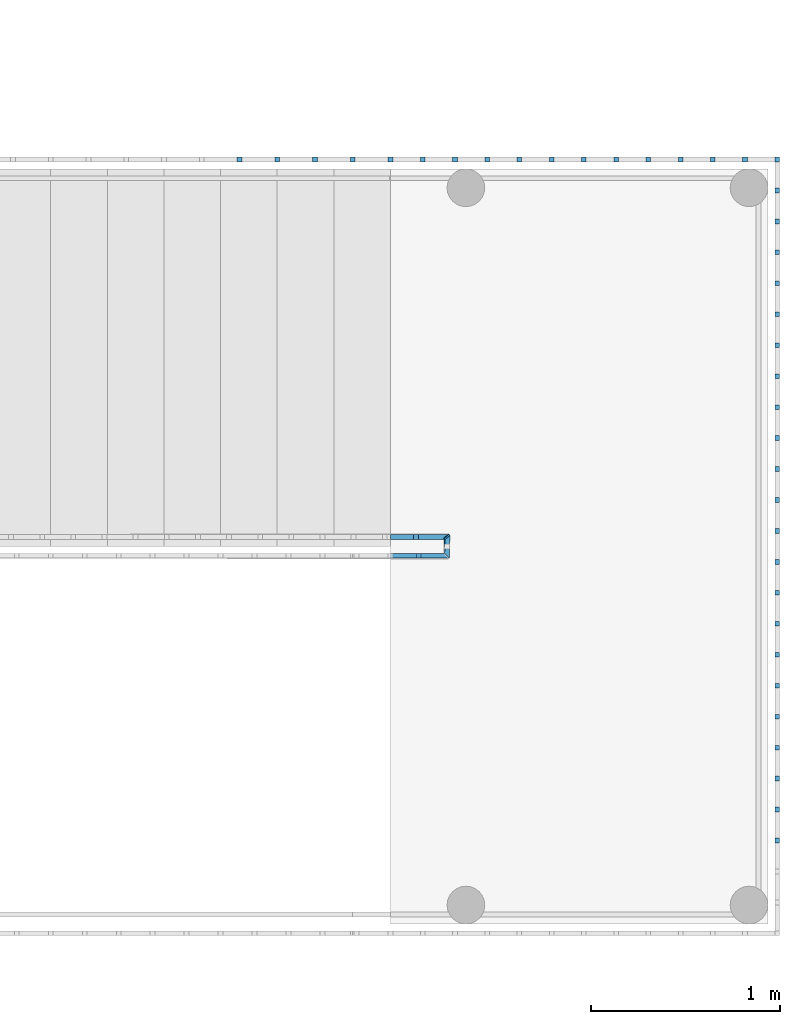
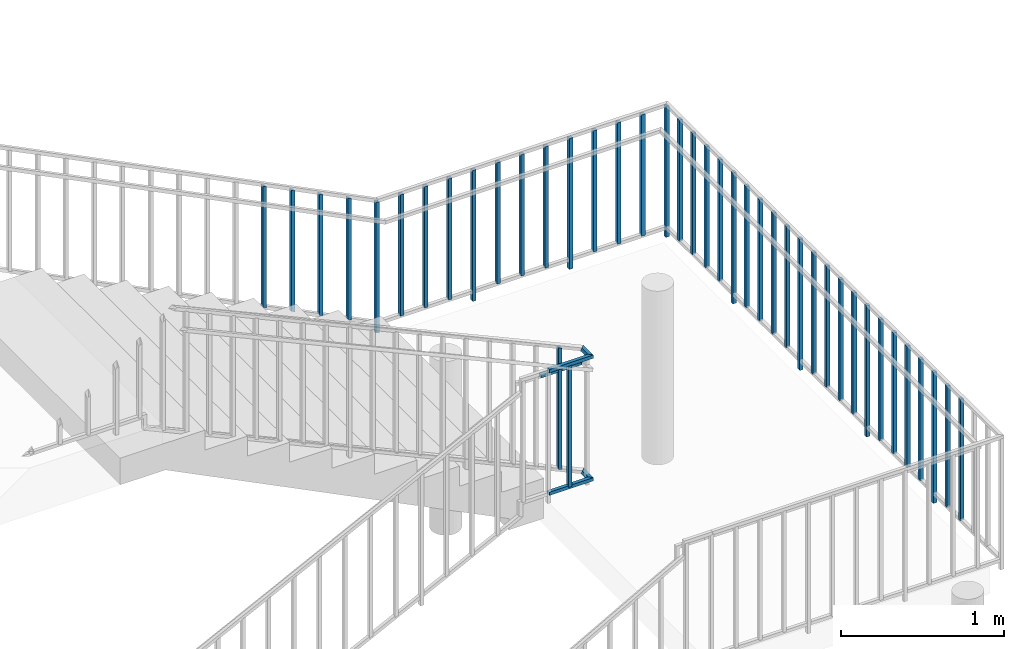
# One storey, part 19 of 19: 46 building element parts, 2 elements without a shape of their own.
"""IFC4 building model written with IfcOpenShell, lengths in millimetres."""

from ifc_helpers import new_model, entity, si_unit, converted_unit, derived_unit, direction, frame, origin_with_axes, place, context, subcontext, project, spatial, triangles, material, element, aggregate, save


model = new_model("IFC4")

# Units and contexts
model_context = context("Model", 3, precision=1e-05, world=origin_with_axes(), true_north=direction((0.0, 1.0)))
body_context = subcontext(model_context, "Body", "Model", "MODEL_VIEW")
ifc_project = project(units=[si_unit("LENGTHUNIT", "METRE", prefix="MILLI"), si_unit("AREAUNIT", "SQUARE_METRE"), si_unit("VOLUMEUNIT", "CUBIC_METRE"), converted_unit("PLANEANGLEUNIT", "DEGREE", entity("IfcLengthMeasure", 0.017453), si_unit("PLANEANGLEUNIT", "RADIAN"), dimensions=[0, 0, 0, 0, 0, 0, 0]), si_unit("SOLIDANGLEUNIT", "STERADIAN"), si_unit("MASSUNIT", "GRAM"), si_unit("TIMEUNIT", "SECOND"), si_unit("THERMODYNAMICTEMPERATUREUNIT", "DEGREE_CELSIUS"), si_unit("LUMINOUSINTENSITYUNIT", "LUMEN"), si_unit("POWERUNIT", "WATT"), derived_unit("THERMALTRANSMITTANCEUNIT", [(si_unit("POWERUNIT", "WATT"), 1), (si_unit("THERMODYNAMICTEMPERATUREUNIT", "KELVIN"), -1), (si_unit("AREAUNIT", "SQUARE_METRE"), -1)])], contexts=[model_context])

# Site, building, storey
site_placement = place(None, origin_with_axes())
site = spatial("IfcSite", under=ifc_project, at=site_placement, Name="Default Site", CompositionType="ELEMENT")
building_placement = place(site_placement, origin_with_axes())
building = spatial("IfcBuilding", under=site, at=building_placement, Name="Default Building", CompositionType="ELEMENT")
storey_placement = place(building_placement, frame((0.0, 0.0, 3000.0), z_axis=(0.0, 0.0, 1.0), x_axis=(1.0, 0.0, 0.0)))
storey = spatial("IfcBuildingStorey", under=building, at=storey_placement, Name="EG - Story", CompositionType="ELEMENT", Elevation=3000.0)

# Railing, building element parts
railing_1_placement = place(storey_placement, origin_with_axes())
railing_1 = element("IfcRailing", 1, at=railing_1_placement, inside=storey, Name="Geländer - 001", PredefinedType="NOTDEFINED")
ifc_material = material(Name="Bekleidung")
building_element_part_1_placement = place(railing_1_placement, frame((84051.391327, -29589.262838, -3000.0), z_axis=(0.0, 0.0, 1.0), x_axis=(1.0, 0.0, 0.0)))
building_element_part_1 = element("IfcBuildingElementPart", 2, at=building_element_part_1_placement, material=ifc_material, Name="Bekleidung", PredefinedType="NOTDEFINED", context=body_context, shape_type="Tessellation", body=[
    triangles([(3012.5, -62.499, 1582.5), (3012.5, -62.499, 1557.5), (3009.978, 64.15, 1557.757), (2987.5, -37.499, 1582.5), (2987.5, -37.499, 1557.5), (2984.978, 41.391, 1557.757), (3015.022, 58.609, 1582.243), (2990.022, 35.85, 1582.243)], [[1, 2, 3], [1, 4, 5], [1, 5, 2], [2, 6, 3], [1, 3, 7], [4, 1, 7], [5, 4, 8], [2, 5, 6], [7, 3, 6], [7, 6, 8], [4, 7, 8], [5, 8, 6]], closed=False),
])
building_element_part_2_placement = place(railing_1_placement, frame((84051.391327, -29589.262838, -3000.0), z_axis=(0.0, 0.0, 1.0), x_axis=(1.0, 0.0, 0.0)))
building_element_part_2 = element("IfcBuildingElementPart", 3, at=building_element_part_2_placement, material=ifc_material, Name="Bekleidung", PredefinedType="NOTDEFINED", context=body_context, shape_type="Tessellation", body=[
    triangles([(3012.5, -62.499, 2500.0), (3012.5, -62.499, 2475.0), (3007.456, 66.92, 2475.514), (2987.5, -37.499, 2500.0), (2987.5, -37.499, 2475.0), (2982.456, 44.161, 2475.514), (3012.5, 61.38, 2500.0), (2987.5, 38.62, 2500.0)], [[1, 2, 3], [1, 4, 5], [1, 5, 2], [2, 6, 3], [1, 3, 7], [4, 1, 7], [4, 7, 8], [5, 4, 8], [2, 5, 6], [7, 3, 6], [7, 6, 8], [5, 8, 6]], closed=False),
])
building_element_part_3_placement = place(railing_1_placement, frame((84051.391327, -29589.262838, -3000.0), z_axis=(0.0, 0.0, 1.0), x_axis=(1.0, 0.0, 0.0)))
building_element_part_3 = element("IfcBuildingElementPart", 4, at=building_element_part_3_placement, material=ifc_material, Name="Bekleidung", PredefinedType="NOTDEFINED", context=body_context, shape_type="Tessellation", body=[
    triangles([(2700.0, 37.5, 2400.0), (2700.0, 37.5, 2375.0), (2987.5, 37.5, 2375.0), (2987.5, 37.5, 2400.0), (2700.0, 62.5, 2400.0), (2700.0, 62.5, 2375.0), (3012.5, 62.5, 2375.0), (3012.5, 62.5, 2400.0)], [[1, 2, 3], [1, 3, 4], [1, 5, 6], [1, 6, 2], [2, 6, 7], [2, 7, 3], [4, 3, 7], [4, 7, 8], [5, 1, 4], [5, 4, 8], [6, 5, 8], [6, 8, 7]], closed=False),
])
building_element_part_4_placement = place(railing_1_placement, frame((84051.391327, -29589.262838, -3000.0), z_axis=(0.0, 0.0, 1.0), x_axis=(1.0, 0.0, 0.0)))
building_element_part_4 = element("IfcBuildingElementPart", 5, at=building_element_part_4_placement, material=ifc_material, Name="Bekleidung", PredefinedType="NOTDEFINED", context=body_context, shape_type="Tessellation", body=[
    triangles([(2700.0, -62.499, 2500.0), (2700.0, -62.499, 2475.0), (3012.5, -62.499, 2475.0), (3012.5, -62.499, 2500.0), (2700.0, -37.499, 2500.0), (2700.0, -37.499, 2475.0), (2987.5, -37.499, 2475.0), (2987.5, -37.499, 2500.0)], [[1, 2, 3], [1, 3, 4], [1, 5, 6], [1, 6, 2], [2, 6, 7], [2, 7, 3], [4, 3, 7], [4, 7, 8], [5, 1, 4], [5, 4, 8], [6, 5, 8], [6, 8, 7]], closed=False),
])
building_element_part_5_placement = place(railing_1_placement, frame((84051.391327, -29589.262838, -3000.0), z_axis=(0.0, 0.0, 1.0), x_axis=(1.0, 0.0, 0.0)))
building_element_part_5 = element("IfcBuildingElementPart", 6, at=building_element_part_5_placement, material=ifc_material, Name="Bekleidung", PredefinedType="NOTDEFINED", context=body_context, shape_type="Tessellation", body=[
    triangles([(2700.0, -62.499, 1582.5), (2700.0, -62.499, 1557.5), (3012.5, -62.499, 1557.5), (3012.5, -62.499, 1582.5), (2700.0, -37.499, 1582.5), (2700.0, -37.499, 1557.5), (2987.5, -37.499, 1557.5), (2987.5, -37.499, 1582.5)], [[1, 2, 3], [1, 3, 4], [1, 5, 6], [1, 6, 2], [2, 6, 7], [2, 7, 3], [4, 3, 7], [4, 7, 8], [5, 1, 4], [5, 4, 8], [6, 5, 8], [6, 8, 7]], closed=False),
])
building_element_part_6_placement = place(railing_1_placement, frame((84051.391327, -29589.262838, -3000.0), z_axis=(0.0, 0.0, 1.0), x_axis=(1.0, 0.0, 0.0)))
building_element_part_6 = element("IfcBuildingElementPart", 7, at=building_element_part_6_placement, material=ifc_material, Name="Bekleidung", PredefinedType="NOTDEFINED", context=body_context, shape_type="Tessellation", body=[
    triangles([(2862.5, -62.499, 1570.0), (2862.5, -37.499, 1570.0), (2862.5, -37.499, 2477.5), (2862.5, -62.499, 2477.5), (2837.5, -62.499, 1570.0), (2837.5, -37.499, 1570.0), (2837.5, -37.499, 2477.5), (2837.5, -62.499, 2477.5)], [[1, 2, 3], [1, 3, 4], [1, 5, 6], [1, 6, 2], [2, 6, 7], [2, 7, 3], [4, 3, 7], [4, 7, 8], [5, 1, 4], [5, 4, 8], [6, 5, 8], [6, 8, 7]], closed=False),
])
building_element_part_7_placement = place(railing_1_placement, frame((84051.391327, -29589.262838, -3000.0), z_axis=(0.0, 0.0, 1.0), x_axis=(1.0, 0.0, 0.0)))
building_element_part_7 = element("IfcBuildingElementPart", 8, at=building_element_part_7_placement, material=ifc_material, Name="Bekleidung", PredefinedType="NOTDEFINED", context=body_context, shape_type="Tessellation", body=[
    triangles([(2822.5, 62.5, 1650.682), (2822.5, 37.5, 1650.682), (2822.5, 37.5, 2558.182), (2822.5, 62.5, 2558.182), (2847.5, 62.5, 1639.318), (2847.5, 37.5, 1639.318), (2847.5, 37.5, 2546.818), (2847.5, 62.5, 2546.818)], [[1, 2, 3], [1, 3, 4], [1, 5, 6], [1, 6, 2], [2, 6, 7], [2, 7, 3], [4, 3, 7], [4, 7, 8], [5, 1, 4], [5, 4, 8], [6, 5, 8], [6, 8, 7]], closed=False),
])
aggregate(railing_1, [building_element_part_1, building_element_part_2, building_element_part_3, building_element_part_4, building_element_part_5, building_element_part_6, building_element_part_7])

railing_2_placement = place(storey_placement, origin_with_axes())
railing_2 = element("IfcRailing", 9, at=railing_2_placement, inside=storey, Name="Geländer - 001", PredefinedType="NOTDEFINED")
building_element_part_8_placement = place(railing_2_placement, frame((84051.391327, -31589.262838, -3000.0), z_axis=(0.0, 0.0, 1.0), x_axis=(1.0, 0.0, 0.0)))
building_element_part_8 = element("IfcBuildingElementPart", 10, at=building_element_part_8_placement, material=ifc_material, Name="Bekleidung", PredefinedType="NOTDEFINED", context=body_context, shape_type="Tessellation", body=[
    triangles([(4762.5, 4062.5, 1500.0), (4737.5, 4062.5, 1500.0), (4737.5, 4062.5, 2480.0), (4762.5, 4062.5, 2480.0), (4762.5, 4037.5, 1500.0), (4737.5, 4037.5, 1500.0), (4737.5, 4037.5, 2480.0), (4762.5, 4037.5, 2480.0)], [[1, 2, 3], [1, 3, 4], [1, 5, 6], [1, 6, 2], [2, 6, 7], [2, 7, 3], [4, 3, 7], [4, 7, 8], [5, 1, 4], [5, 4, 8], [6, 5, 8], [6, 8, 7]], closed=False),
])
building_element_part_9_placement = place(railing_2_placement, frame((84051.391327, -31589.262838, -3000.0), z_axis=(0.0, 0.0, 1.0), x_axis=(1.0, 0.0, 0.0)))
building_element_part_9 = element("IfcBuildingElementPart", 11, at=building_element_part_9_placement, material=ifc_material, Name="Bekleidung", PredefinedType="NOTDEFINED", context=body_context, shape_type="Tessellation", body=[
    triangles([(2687.5, 4062.5, 1502.951), (2687.5, 4037.5, 1502.951), (2687.5, 4037.5, 2482.951), (2687.5, 4062.5, 2482.951), (2712.5, 4062.5, 1497.049), (2712.5, 4037.5, 1497.049), (2712.5, 4037.5, 2477.049), (2712.5, 4062.5, 2477.049)], [[1, 2, 3], [1, 3, 4], [1, 5, 6], [1, 6, 2], [2, 6, 7], [2, 7, 3], [4, 3, 7], [4, 7, 8], [5, 1, 4], [5, 4, 8], [6, 5, 8], [6, 8, 7]], closed=False),
])
building_element_part_10_placement = place(railing_2_placement, frame((84051.391327, -31589.262838, -3000.0), z_axis=(0.0, 0.0, 1.0), x_axis=(1.0, 0.0, 0.0)))
building_element_part_10 = element("IfcBuildingElementPart", 12, at=building_element_part_10_placement, material=ifc_material, Name="Bekleidung", PredefinedType="NOTDEFINED", context=body_context, shape_type="Tessellation", body=[
    triangles([(4762.5, 454.5, 1570.0), (4737.5, 454.5, 1570.0), (4737.5, 454.5, 2477.5), (4762.5, 454.5, 2477.5), (4762.5, 429.5, 1570.0), (4737.5, 429.5, 1570.0), (4737.5, 429.5, 2477.5), (4762.5, 429.5, 2477.5)], [[1, 2, 3], [1, 3, 4], [1, 5, 6], [1, 6, 2], [2, 6, 7], [2, 7, 3], [4, 3, 7], [4, 7, 8], [5, 1, 4], [5, 4, 8], [6, 5, 8], [6, 8, 7]], closed=False),
])
building_element_part_11_placement = place(railing_2_placement, frame((84051.391327, -31589.262838, -3000.0), z_axis=(0.0, 0.0, 1.0), x_axis=(1.0, 0.0, 0.0)))
building_element_part_11 = element("IfcBuildingElementPart", 13, at=building_element_part_11_placement, material=ifc_material, Name="Bekleidung", PredefinedType="NOTDEFINED", context=body_context, shape_type="Tessellation", body=[
    triangles([(4762.5, 618.5, 1570.0), (4737.5, 618.5, 1570.0), (4737.5, 618.5, 2477.5), (4762.5, 618.5, 2477.5), (4762.5, 593.5, 1570.0), (4737.5, 593.5, 1570.0), (4737.5, 593.5, 2477.5), (4762.5, 593.5, 2477.5)], [[1, 2, 3], [1, 3, 4], [1, 5, 6], [1, 6, 2], [2, 6, 7], [2, 7, 3], [4, 3, 7], [4, 7, 8], [5, 1, 4], [5, 4, 8], [6, 5, 8], [6, 8, 7]], closed=False),
])
building_element_part_12_placement = place(railing_2_placement, frame((84051.391327, -31589.262838, -3000.0), z_axis=(0.0, 0.0, 1.0), x_axis=(1.0, 0.0, 0.0)))
building_element_part_12 = element("IfcBuildingElementPart", 14, at=building_element_part_12_placement, material=ifc_material, Name="Bekleidung", PredefinedType="NOTDEFINED", context=body_context, shape_type="Tessellation", body=[
    triangles([(4762.5, 782.5, 1500.0), (4737.5, 782.5, 1500.0), (4737.5, 782.5, 2480.0), (4762.5, 782.5, 2480.0), (4762.5, 757.5, 1500.0), (4737.5, 757.5, 1500.0), (4737.5, 757.5, 2480.0), (4762.5, 757.5, 2480.0)], [[1, 2, 3], [1, 3, 4], [1, 5, 6], [1, 6, 2], [2, 6, 7], [2, 7, 3], [4, 3, 7], [4, 7, 8], [5, 1, 4], [5, 4, 8], [6, 5, 8], [6, 8, 7]], closed=False),
])
building_element_part_13_placement = place(railing_2_placement, frame((84051.391327, -31589.262838, -3000.0), z_axis=(0.0, 0.0, 1.0), x_axis=(1.0, 0.0, 0.0)))
building_element_part_13 = element("IfcBuildingElementPart", 15, at=building_element_part_13_placement, material=ifc_material, Name="Bekleidung", PredefinedType="NOTDEFINED", context=body_context, shape_type="Tessellation", body=[
    triangles([(4762.5, 946.5, 1570.0), (4737.5, 946.5, 1570.0), (4737.5, 946.5, 2477.5), (4762.5, 946.5, 2477.5), (4762.5, 921.5, 1570.0), (4737.5, 921.5, 1570.0), (4737.5, 921.5, 2477.5), (4762.5, 921.5, 2477.5)], [[1, 2, 3], [1, 3, 4], [1, 5, 6], [1, 6, 2], [2, 6, 7], [2, 7, 3], [4, 3, 7], [4, 7, 8], [5, 1, 4], [5, 4, 8], [6, 5, 8], [6, 8, 7]], closed=False),
])
building_element_part_14_placement = place(railing_2_placement, frame((84051.391327, -31589.262838, -3000.0), z_axis=(0.0, 0.0, 1.0), x_axis=(1.0, 0.0, 0.0)))
building_element_part_14 = element("IfcBuildingElementPart", 16, at=building_element_part_14_placement, material=ifc_material, Name="Bekleidung", PredefinedType="NOTDEFINED", context=body_context, shape_type="Tessellation", body=[
    triangles([(4762.5, 1110.5, 1570.0), (4737.5, 1110.5, 1570.0), (4737.5, 1110.5, 2477.5), (4762.5, 1110.5, 2477.5), (4762.5, 1085.5, 1570.0), (4737.5, 1085.5, 1570.0), (4737.5, 1085.5, 2477.5), (4762.5, 1085.5, 2477.5)], [[1, 2, 3], [1, 3, 4], [1, 5, 6], [1, 6, 2], [2, 6, 7], [2, 7, 3], [4, 3, 7], [4, 7, 8], [5, 1, 4], [5, 4, 8], [6, 5, 8], [6, 8, 7]], closed=False),
])
building_element_part_15_placement = place(railing_2_placement, frame((84051.391327, -31589.262838, -3000.0), z_axis=(0.0, 0.0, 1.0), x_axis=(1.0, 0.0, 0.0)))
building_element_part_15 = element("IfcBuildingElementPart", 17, at=building_element_part_15_placement, material=ifc_material, Name="Bekleidung", PredefinedType="NOTDEFINED", context=body_context, shape_type="Tessellation", body=[
    triangles([(4762.5, 1274.5, 1570.0), (4737.5, 1274.5, 1570.0), (4737.5, 1274.5, 2477.5), (4762.5, 1274.5, 2477.5), (4762.5, 1249.5, 1570.0), (4737.5, 1249.5, 1570.0), (4737.5, 1249.5, 2477.5), (4762.5, 1249.5, 2477.5)], [[1, 2, 3], [1, 3, 4], [1, 5, 6], [1, 6, 2], [2, 6, 7], [2, 7, 3], [4, 3, 7], [4, 7, 8], [5, 1, 4], [5, 4, 8], [6, 5, 8], [6, 8, 7]], closed=False),
])
building_element_part_16_placement = place(railing_2_placement, frame((84051.391327, -31589.262838, -3000.0), z_axis=(0.0, 0.0, 1.0), x_axis=(1.0, 0.0, 0.0)))
building_element_part_16 = element("IfcBuildingElementPart", 18, at=building_element_part_16_placement, material=ifc_material, Name="Bekleidung", PredefinedType="NOTDEFINED", context=body_context, shape_type="Tessellation", body=[
    triangles([(4762.5, 1438.5, 1570.0), (4737.5, 1438.5, 1570.0), (4737.5, 1438.5, 2477.5), (4762.5, 1438.5, 2477.5), (4762.5, 1413.5, 1570.0), (4737.5, 1413.5, 1570.0), (4737.5, 1413.5, 2477.5), (4762.5, 1413.5, 2477.5)], [[1, 2, 3], [1, 3, 4], [1, 5, 6], [1, 6, 2], [2, 6, 7], [2, 7, 3], [4, 3, 7], [4, 7, 8], [5, 1, 4], [5, 4, 8], [6, 5, 8], [6, 8, 7]], closed=False),
])
building_element_part_17_placement = place(railing_2_placement, frame((84051.391327, -31589.262838, -3000.0), z_axis=(0.0, 0.0, 1.0), x_axis=(1.0, 0.0, 0.0)))
building_element_part_17 = element("IfcBuildingElementPart", 19, at=building_element_part_17_placement, material=ifc_material, Name="Bekleidung", PredefinedType="NOTDEFINED", context=body_context, shape_type="Tessellation", body=[
    triangles([(4762.5, 1602.5, 1500.0), (4737.5, 1602.5, 1500.0), (4737.5, 1602.5, 2480.0), (4762.5, 1602.5, 2480.0), (4762.5, 1577.5, 1500.0), (4737.5, 1577.5, 1500.0), (4737.5, 1577.5, 2480.0), (4762.5, 1577.5, 2480.0)], [[1, 2, 3], [1, 3, 4], [1, 5, 6], [1, 6, 2], [2, 6, 7], [2, 7, 3], [4, 3, 7], [4, 7, 8], [5, 1, 4], [5, 4, 8], [6, 5, 8], [6, 8, 7]], closed=False),
])
building_element_part_18_placement = place(railing_2_placement, frame((84051.391327, -31589.262838, -3000.0), z_axis=(0.0, 0.0, 1.0), x_axis=(1.0, 0.0, 0.0)))
building_element_part_18 = element("IfcBuildingElementPart", 20, at=building_element_part_18_placement, material=ifc_material, Name="Bekleidung", PredefinedType="NOTDEFINED", context=body_context, shape_type="Tessellation", body=[
    triangles([(4762.5, 1766.5, 1570.0), (4737.5, 1766.5, 1570.0), (4737.5, 1766.5, 2477.5), (4762.5, 1766.5, 2477.5), (4762.5, 1741.5, 1570.0), (4737.5, 1741.5, 1570.0), (4737.5, 1741.5, 2477.5), (4762.5, 1741.5, 2477.5)], [[1, 2, 3], [1, 3, 4], [1, 5, 6], [1, 6, 2], [2, 6, 7], [2, 7, 3], [4, 3, 7], [4, 7, 8], [5, 1, 4], [5, 4, 8], [6, 5, 8], [6, 8, 7]], closed=False),
])
building_element_part_19_placement = place(railing_2_placement, frame((84051.391327, -31589.262838, -3000.0), z_axis=(0.0, 0.0, 1.0), x_axis=(1.0, 0.0, 0.0)))
building_element_part_19 = element("IfcBuildingElementPart", 21, at=building_element_part_19_placement, material=ifc_material, Name="Bekleidung", PredefinedType="NOTDEFINED", context=body_context, shape_type="Tessellation", body=[
    triangles([(4762.5, 1930.5, 1570.0), (4737.5, 1930.5, 1570.0), (4737.5, 1930.5, 2477.5), (4762.5, 1930.5, 2477.5), (4762.5, 1905.5, 1570.0), (4737.5, 1905.5, 1570.0), (4737.5, 1905.5, 2477.5), (4762.5, 1905.5, 2477.5)], [[1, 2, 3], [1, 3, 4], [1, 5, 6], [1, 6, 2], [2, 6, 7], [2, 7, 3], [4, 3, 7], [4, 7, 8], [5, 1, 4], [5, 4, 8], [6, 5, 8], [6, 8, 7]], closed=False),
])
building_element_part_20_placement = place(railing_2_placement, frame((84051.391327, -31589.262838, -3000.0), z_axis=(0.0, 0.0, 1.0), x_axis=(1.0, 0.0, 0.0)))
building_element_part_20 = element("IfcBuildingElementPart", 22, at=building_element_part_20_placement, material=ifc_material, Name="Bekleidung", PredefinedType="NOTDEFINED", context=body_context, shape_type="Tessellation", body=[
    triangles([(4762.5, 2094.5, 1570.0), (4737.5, 2094.5, 1570.0), (4737.5, 2094.5, 2477.5), (4762.5, 2094.5, 2477.5), (4762.5, 2069.5, 1570.0), (4737.5, 2069.5, 1570.0), (4737.5, 2069.5, 2477.5), (4762.5, 2069.5, 2477.5)], [[1, 2, 3], [1, 3, 4], [1, 5, 6], [1, 6, 2], [2, 6, 7], [2, 7, 3], [4, 3, 7], [4, 7, 8], [5, 1, 4], [5, 4, 8], [6, 5, 8], [6, 8, 7]], closed=False),
])
building_element_part_21_placement = place(railing_2_placement, frame((84051.391327, -31589.262838, -3000.0), z_axis=(0.0, 0.0, 1.0), x_axis=(1.0, 0.0, 0.0)))
building_element_part_21 = element("IfcBuildingElementPart", 23, at=building_element_part_21_placement, material=ifc_material, Name="Bekleidung", PredefinedType="NOTDEFINED", context=body_context, shape_type="Tessellation", body=[
    triangles([(4762.5, 2258.5, 1570.0), (4737.5, 2258.5, 1570.0), (4737.5, 2258.5, 2477.5), (4762.5, 2258.5, 2477.5), (4762.5, 2233.5, 1570.0), (4737.5, 2233.5, 1570.0), (4737.5, 2233.5, 2477.5), (4762.5, 2233.5, 2477.5)], [[1, 2, 3], [1, 3, 4], [1, 5, 6], [1, 6, 2], [2, 6, 7], [2, 7, 3], [4, 3, 7], [4, 7, 8], [5, 1, 4], [5, 4, 8], [6, 5, 8], [6, 8, 7]], closed=False),
])
building_element_part_22_placement = place(railing_2_placement, frame((84051.391327, -31589.262838, -3000.0), z_axis=(0.0, 0.0, 1.0), x_axis=(1.0, 0.0, 0.0)))
building_element_part_22 = element("IfcBuildingElementPart", 24, at=building_element_part_22_placement, material=ifc_material, Name="Bekleidung", PredefinedType="NOTDEFINED", context=body_context, shape_type="Tessellation", body=[
    triangles([(4762.5, 2422.5, 1500.0), (4737.5, 2422.5, 1500.0), (4737.5, 2422.5, 2480.0), (4762.5, 2422.5, 2480.0), (4762.5, 2397.5, 1500.0), (4737.5, 2397.5, 1500.0), (4737.5, 2397.5, 2480.0), (4762.5, 2397.5, 2480.0)], [[1, 2, 3], [1, 3, 4], [1, 5, 6], [1, 6, 2], [2, 6, 7], [2, 7, 3], [4, 3, 7], [4, 7, 8], [5, 1, 4], [5, 4, 8], [6, 5, 8], [6, 8, 7]], closed=False),
])
building_element_part_23_placement = place(railing_2_placement, frame((84051.391327, -31589.262838, -3000.0), z_axis=(0.0, 0.0, 1.0), x_axis=(1.0, 0.0, 0.0)))
building_element_part_23 = element("IfcBuildingElementPart", 25, at=building_element_part_23_placement, material=ifc_material, Name="Bekleidung", PredefinedType="NOTDEFINED", context=body_context, shape_type="Tessellation", body=[
    triangles([(4762.5, 2586.5, 1570.0), (4737.5, 2586.5, 1570.0), (4737.5, 2586.5, 2477.5), (4762.5, 2586.5, 2477.5), (4762.5, 2561.5, 1570.0), (4737.5, 2561.5, 1570.0), (4737.5, 2561.5, 2477.5), (4762.5, 2561.5, 2477.5)], [[1, 2, 3], [1, 3, 4], [1, 5, 6], [1, 6, 2], [2, 6, 7], [2, 7, 3], [4, 3, 7], [4, 7, 8], [5, 1, 4], [5, 4, 8], [6, 5, 8], [6, 8, 7]], closed=False),
])
building_element_part_24_placement = place(railing_2_placement, frame((84051.391327, -31589.262838, -3000.0), z_axis=(0.0, 0.0, 1.0), x_axis=(1.0, 0.0, 0.0)))
building_element_part_24 = element("IfcBuildingElementPart", 26, at=building_element_part_24_placement, material=ifc_material, Name="Bekleidung", PredefinedType="NOTDEFINED", context=body_context, shape_type="Tessellation", body=[
    triangles([(4762.5, 2750.5, 1570.0), (4737.5, 2750.5, 1570.0), (4737.5, 2750.5, 2477.5), (4762.5, 2750.5, 2477.5), (4762.5, 2725.5, 1570.0), (4737.5, 2725.5, 1570.0), (4737.5, 2725.5, 2477.5), (4762.5, 2725.5, 2477.5)], [[1, 2, 3], [1, 3, 4], [1, 5, 6], [1, 6, 2], [2, 6, 7], [2, 7, 3], [4, 3, 7], [4, 7, 8], [5, 1, 4], [5, 4, 8], [6, 5, 8], [6, 8, 7]], closed=False),
])
building_element_part_25_placement = place(railing_2_placement, frame((84051.391327, -31589.262838, -3000.0), z_axis=(0.0, 0.0, 1.0), x_axis=(1.0, 0.0, 0.0)))
building_element_part_25 = element("IfcBuildingElementPart", 27, at=building_element_part_25_placement, material=ifc_material, Name="Bekleidung", PredefinedType="NOTDEFINED", context=body_context, shape_type="Tessellation", body=[
    triangles([(4762.5, 2914.5, 1570.0), (4737.5, 2914.5, 1570.0), (4737.5, 2914.5, 2477.5), (4762.5, 2914.5, 2477.5), (4762.5, 2889.5, 1570.0), (4737.5, 2889.5, 1570.0), (4737.5, 2889.5, 2477.5), (4762.5, 2889.5, 2477.5)], [[1, 2, 3], [1, 3, 4], [1, 5, 6], [1, 6, 2], [2, 6, 7], [2, 7, 3], [4, 3, 7], [4, 7, 8], [5, 1, 4], [5, 4, 8], [6, 5, 8], [6, 8, 7]], closed=False),
])
building_element_part_26_placement = place(railing_2_placement, frame((84051.391327, -31589.262838, -3000.0), z_axis=(0.0, 0.0, 1.0), x_axis=(1.0, 0.0, 0.0)))
building_element_part_26 = element("IfcBuildingElementPart", 28, at=building_element_part_26_placement, material=ifc_material, Name="Bekleidung", PredefinedType="NOTDEFINED", context=body_context, shape_type="Tessellation", body=[
    triangles([(4762.5, 3078.5, 1570.0), (4737.5, 3078.5, 1570.0), (4737.5, 3078.5, 2477.5), (4762.5, 3078.5, 2477.5), (4762.5, 3053.5, 1570.0), (4737.5, 3053.5, 1570.0), (4737.5, 3053.5, 2477.5), (4762.5, 3053.5, 2477.5)], [[1, 2, 3], [1, 3, 4], [1, 5, 6], [1, 6, 2], [2, 6, 7], [2, 7, 3], [4, 3, 7], [4, 7, 8], [5, 1, 4], [5, 4, 8], [6, 5, 8], [6, 8, 7]], closed=False),
])
building_element_part_27_placement = place(railing_2_placement, frame((84051.391327, -31589.262838, -3000.0), z_axis=(0.0, 0.0, 1.0), x_axis=(1.0, 0.0, 0.0)))
building_element_part_27 = element("IfcBuildingElementPart", 29, at=building_element_part_27_placement, material=ifc_material, Name="Bekleidung", PredefinedType="NOTDEFINED", context=body_context, shape_type="Tessellation", body=[
    triangles([(4762.5, 3242.5, 1500.0), (4737.5, 3242.5, 1500.0), (4737.5, 3242.5, 2480.0), (4762.5, 3242.5, 2480.0), (4762.5, 3217.5, 1500.0), (4737.5, 3217.5, 1500.0), (4737.5, 3217.5, 2480.0), (4762.5, 3217.5, 2480.0)], [[1, 2, 3], [1, 3, 4], [1, 5, 6], [1, 6, 2], [2, 6, 7], [2, 7, 3], [4, 3, 7], [4, 7, 8], [5, 1, 4], [5, 4, 8], [6, 5, 8], [6, 8, 7]], closed=False),
])
building_element_part_28_placement = place(railing_2_placement, frame((84051.391327, -31589.262838, -3000.0), z_axis=(0.0, 0.0, 1.0), x_axis=(1.0, 0.0, 0.0)))
building_element_part_28 = element("IfcBuildingElementPart", 30, at=building_element_part_28_placement, material=ifc_material, Name="Bekleidung", PredefinedType="NOTDEFINED", context=body_context, shape_type="Tessellation", body=[
    triangles([(4762.5, 3406.5, 1570.0), (4737.5, 3406.5, 1570.0), (4737.5, 3406.5, 2477.5), (4762.5, 3406.5, 2477.5), (4762.5, 3381.5, 1570.0), (4737.5, 3381.5, 1570.0), (4737.5, 3381.5, 2477.5), (4762.5, 3381.5, 2477.5)], [[1, 2, 3], [1, 3, 4], [1, 5, 6], [1, 6, 2], [2, 6, 7], [2, 7, 3], [4, 3, 7], [4, 7, 8], [5, 1, 4], [5, 4, 8], [6, 5, 8], [6, 8, 7]], closed=False),
])
building_element_part_29_placement = place(railing_2_placement, frame((84051.391327, -31589.262838, -3000.0), z_axis=(0.0, 0.0, 1.0), x_axis=(1.0, 0.0, 0.0)))
building_element_part_29 = element("IfcBuildingElementPart", 31, at=building_element_part_29_placement, material=ifc_material, Name="Bekleidung", PredefinedType="NOTDEFINED", context=body_context, shape_type="Tessellation", body=[
    triangles([(4762.5, 3570.5, 1570.0), (4737.5, 3570.5, 1570.0), (4737.5, 3570.5, 2477.5), (4762.5, 3570.5, 2477.5), (4762.5, 3545.5, 1570.0), (4737.5, 3545.5, 1570.0), (4737.5, 3545.5, 2477.5), (4762.5, 3545.5, 2477.5)], [[1, 2, 3], [1, 3, 4], [1, 5, 6], [1, 6, 2], [2, 6, 7], [2, 7, 3], [4, 3, 7], [4, 7, 8], [5, 1, 4], [5, 4, 8], [6, 5, 8], [6, 8, 7]], closed=False),
])
building_element_part_30_placement = place(railing_2_placement, frame((84051.391327, -31589.262838, -3000.0), z_axis=(0.0, 0.0, 1.0), x_axis=(1.0, 0.0, 0.0)))
building_element_part_30 = element("IfcBuildingElementPart", 32, at=building_element_part_30_placement, material=ifc_material, Name="Bekleidung", PredefinedType="NOTDEFINED", context=body_context, shape_type="Tessellation", body=[
    triangles([(4762.5, 3734.5, 1570.0), (4737.5, 3734.5, 1570.0), (4737.5, 3734.5, 2477.5), (4762.5, 3734.5, 2477.5), (4762.5, 3709.5, 1570.0), (4737.5, 3709.5, 1570.0), (4737.5, 3709.5, 2477.5), (4762.5, 3709.5, 2477.5)], [[1, 2, 3], [1, 3, 4], [1, 5, 6], [1, 6, 2], [2, 6, 7], [2, 7, 3], [4, 3, 7], [4, 7, 8], [5, 1, 4], [5, 4, 8], [6, 5, 8], [6, 8, 7]], closed=False),
])
building_element_part_31_placement = place(railing_2_placement, frame((84051.391327, -31589.262838, -3000.0), z_axis=(0.0, 0.0, 1.0), x_axis=(1.0, 0.0, 0.0)))
building_element_part_31 = element("IfcBuildingElementPart", 33, at=building_element_part_31_placement, material=ifc_material, Name="Bekleidung", PredefinedType="NOTDEFINED", context=body_context, shape_type="Tessellation", body=[
    triangles([(4762.5, 3898.5, 1570.0), (4737.5, 3898.5, 1570.0), (4737.5, 3898.5, 2477.5), (4762.5, 3898.5, 2477.5), (4762.5, 3873.5, 1570.0), (4737.5, 3873.5, 1570.0), (4737.5, 3873.5, 2477.5), (4762.5, 3873.5, 2477.5)], [[1, 2, 3], [1, 3, 4], [1, 5, 6], [1, 6, 2], [2, 6, 7], [2, 7, 3], [4, 3, 7], [4, 7, 8], [5, 1, 4], [5, 4, 8], [6, 5, 8], [6, 8, 7]], closed=False),
])
building_element_part_32_placement = place(railing_2_placement, frame((84051.391327, -31589.262838, -3000.0), z_axis=(0.0, 0.0, 1.0), x_axis=(1.0, 0.0, 0.0)))
building_element_part_32 = element("IfcBuildingElementPart", 34, at=building_element_part_32_placement, material=ifc_material, Name="Bekleidung", PredefinedType="NOTDEFINED", context=body_context, shape_type="Tessellation", body=[
    triangles([(4566.667, 4062.5, 1570.0), (4566.667, 4037.5, 1570.0), (4566.667, 4037.5, 2477.5), (4566.667, 4062.5, 2477.5), (4591.667, 4062.5, 1570.0), (4591.667, 4037.5, 1570.0), (4591.667, 4037.5, 2477.5), (4591.667, 4062.5, 2477.5)], [[1, 2, 3], [1, 3, 4], [1, 5, 6], [1, 6, 2], [2, 6, 7], [2, 7, 3], [4, 3, 7], [4, 7, 8], [5, 1, 4], [5, 4, 8], [6, 5, 8], [6, 8, 7]], closed=False),
])
building_element_part_33_placement = place(railing_2_placement, frame((84051.391327, -31589.262838, -3000.0), z_axis=(0.0, 0.0, 1.0), x_axis=(1.0, 0.0, 0.0)))
building_element_part_33 = element("IfcBuildingElementPart", 35, at=building_element_part_33_placement, material=ifc_material, Name="Bekleidung", PredefinedType="NOTDEFINED", context=body_context, shape_type="Tessellation", body=[
    triangles([(4395.833, 4062.5, 1570.0), (4395.833, 4037.5, 1570.0), (4395.833, 4037.5, 2477.5), (4395.833, 4062.5, 2477.5), (4420.833, 4062.5, 1570.0), (4420.833, 4037.5, 1570.0), (4420.833, 4037.5, 2477.5), (4420.833, 4062.5, 2477.5)], [[1, 2, 3], [1, 3, 4], [1, 5, 6], [1, 6, 2], [2, 6, 7], [2, 7, 3], [4, 3, 7], [4, 7, 8], [5, 1, 4], [5, 4, 8], [6, 5, 8], [6, 8, 7]], closed=False),
])
building_element_part_34_placement = place(railing_2_placement, frame((84051.391327, -31589.262838, -3000.0), z_axis=(0.0, 0.0, 1.0), x_axis=(1.0, 0.0, 0.0)))
building_element_part_34 = element("IfcBuildingElementPart", 36, at=building_element_part_34_placement, material=ifc_material, Name="Bekleidung", PredefinedType="NOTDEFINED", context=body_context, shape_type="Tessellation", body=[
    triangles([(4225.0, 4062.5, 1570.0), (4225.0, 4037.5, 1570.0), (4225.0, 4037.5, 2477.5), (4225.0, 4062.5, 2477.5), (4250.0, 4062.5, 1570.0), (4250.0, 4037.5, 1570.0), (4250.0, 4037.5, 2477.5), (4250.0, 4062.5, 2477.5)], [[1, 2, 3], [1, 3, 4], [1, 5, 6], [1, 6, 2], [2, 6, 7], [2, 7, 3], [4, 3, 7], [4, 7, 8], [5, 1, 4], [5, 4, 8], [6, 5, 8], [6, 8, 7]], closed=False),
])
building_element_part_35_placement = place(railing_2_placement, frame((84051.391327, -31589.262838, -3000.0), z_axis=(0.0, 0.0, 1.0), x_axis=(1.0, 0.0, 0.0)))
building_element_part_35 = element("IfcBuildingElementPart", 37, at=building_element_part_35_placement, material=ifc_material, Name="Bekleidung", PredefinedType="NOTDEFINED", context=body_context, shape_type="Tessellation", body=[
    triangles([(4054.167, 4062.5, 1500.0), (4054.167, 4037.5, 1500.0), (4054.167, 4037.5, 2480.0), (4054.167, 4062.5, 2480.0), (4079.167, 4062.5, 1500.0), (4079.167, 4037.5, 1500.0), (4079.167, 4037.5, 2480.0), (4079.167, 4062.5, 2480.0)], [[1, 2, 3], [1, 3, 4], [1, 5, 6], [1, 6, 2], [2, 6, 7], [2, 7, 3], [4, 3, 7], [4, 7, 8], [5, 1, 4], [5, 4, 8], [6, 5, 8], [6, 8, 7]], closed=False),
])
building_element_part_36_placement = place(railing_2_placement, frame((84051.391327, -31589.262838, -3000.0), z_axis=(0.0, 0.0, 1.0), x_axis=(1.0, 0.0, 0.0)))
building_element_part_36 = element("IfcBuildingElementPart", 38, at=building_element_part_36_placement, material=ifc_material, Name="Bekleidung", PredefinedType="NOTDEFINED", context=body_context, shape_type="Tessellation", body=[
    triangles([(3883.333, 4062.5, 1570.0), (3883.333, 4037.5, 1570.0), (3883.333, 4037.5, 2477.5), (3883.333, 4062.5, 2477.5), (3908.333, 4062.5, 1570.0), (3908.333, 4037.5, 1570.0), (3908.333, 4037.5, 2477.5), (3908.333, 4062.5, 2477.5)], [[1, 2, 3], [1, 3, 4], [1, 5, 6], [1, 6, 2], [2, 6, 7], [2, 7, 3], [4, 3, 7], [4, 7, 8], [5, 1, 4], [5, 4, 8], [6, 5, 8], [6, 8, 7]], closed=False),
])
building_element_part_37_placement = place(railing_2_placement, frame((84051.391327, -31589.262838, -3000.0), z_axis=(0.0, 0.0, 1.0), x_axis=(1.0, 0.0, 0.0)))
building_element_part_37 = element("IfcBuildingElementPart", 39, at=building_element_part_37_placement, material=ifc_material, Name="Bekleidung", PredefinedType="NOTDEFINED", context=body_context, shape_type="Tessellation", body=[
    triangles([(3712.5, 4062.5, 1570.0), (3712.5, 4037.5, 1570.0), (3712.5, 4037.5, 2477.5), (3712.5, 4062.5, 2477.5), (3737.5, 4062.5, 1570.0), (3737.5, 4037.5, 1570.0), (3737.5, 4037.5, 2477.5), (3737.5, 4062.5, 2477.5)], [[1, 2, 3], [1, 3, 4], [1, 5, 6], [1, 6, 2], [2, 6, 7], [2, 7, 3], [4, 3, 7], [4, 7, 8], [5, 1, 4], [5, 4, 8], [6, 5, 8], [6, 8, 7]], closed=False),
])
building_element_part_38_placement = place(railing_2_placement, frame((84051.391327, -31589.262838, -3000.0), z_axis=(0.0, 0.0, 1.0), x_axis=(1.0, 0.0, 0.0)))
building_element_part_38 = element("IfcBuildingElementPart", 40, at=building_element_part_38_placement, material=ifc_material, Name="Bekleidung", PredefinedType="NOTDEFINED", context=body_context, shape_type="Tessellation", body=[
    triangles([(3541.667, 4062.5, 1570.0), (3541.667, 4037.5, 1570.0), (3541.667, 4037.5, 2477.5), (3541.667, 4062.5, 2477.5), (3566.667, 4062.5, 1570.0), (3566.667, 4037.5, 1570.0), (3566.667, 4037.5, 2477.5), (3566.667, 4062.5, 2477.5)], [[1, 2, 3], [1, 3, 4], [1, 5, 6], [1, 6, 2], [2, 6, 7], [2, 7, 3], [4, 3, 7], [4, 7, 8], [5, 1, 4], [5, 4, 8], [6, 5, 8], [6, 8, 7]], closed=False),
])
building_element_part_39_placement = place(railing_2_placement, frame((84051.391327, -31589.262838, -3000.0), z_axis=(0.0, 0.0, 1.0), x_axis=(1.0, 0.0, 0.0)))
building_element_part_39 = element("IfcBuildingElementPart", 41, at=building_element_part_39_placement, material=ifc_material, Name="Bekleidung", PredefinedType="NOTDEFINED", context=body_context, shape_type="Tessellation", body=[
    triangles([(3370.833, 4062.5, 1500.0), (3370.833, 4037.5, 1500.0), (3370.833, 4037.5, 2480.0), (3370.833, 4062.5, 2480.0), (3395.833, 4062.5, 1500.0), (3395.833, 4037.5, 1500.0), (3395.833, 4037.5, 2480.0), (3395.833, 4062.5, 2480.0)], [[1, 2, 3], [1, 3, 4], [1, 5, 6], [1, 6, 2], [2, 6, 7], [2, 7, 3], [4, 3, 7], [4, 7, 8], [5, 1, 4], [5, 4, 8], [6, 5, 8], [6, 8, 7]], closed=False),
])
building_element_part_40_placement = place(railing_2_placement, frame((84051.391327, -31589.262838, -3000.0), z_axis=(0.0, 0.0, 1.0), x_axis=(1.0, 0.0, 0.0)))
building_element_part_40 = element("IfcBuildingElementPart", 42, at=building_element_part_40_placement, material=ifc_material, Name="Bekleidung", PredefinedType="NOTDEFINED", context=body_context, shape_type="Tessellation", body=[
    triangles([(3200.0, 4062.5, 1570.0), (3200.0, 4037.5, 1570.0), (3200.0, 4037.5, 2477.5), (3200.0, 4062.5, 2477.5), (3225.0, 4062.5, 1570.0), (3225.0, 4037.5, 1570.0), (3225.0, 4037.5, 2477.5), (3225.0, 4062.5, 2477.5)], [[1, 2, 3], [1, 3, 4], [1, 5, 6], [1, 6, 2], [2, 6, 7], [2, 7, 3], [4, 3, 7], [4, 7, 8], [5, 1, 4], [5, 4, 8], [6, 5, 8], [6, 8, 7]], closed=False),
])
building_element_part_41_placement = place(railing_2_placement, frame((84051.391327, -31589.262838, -3000.0), z_axis=(0.0, 0.0, 1.0), x_axis=(1.0, 0.0, 0.0)))
building_element_part_41 = element("IfcBuildingElementPart", 43, at=building_element_part_41_placement, material=ifc_material, Name="Bekleidung", PredefinedType="NOTDEFINED", context=body_context, shape_type="Tessellation", body=[
    triangles([(3029.167, 4062.5, 1570.0), (3029.167, 4037.5, 1570.0), (3029.167, 4037.5, 2477.5), (3029.167, 4062.5, 2477.5), (3054.167, 4062.5, 1570.0), (3054.167, 4037.5, 1570.0), (3054.167, 4037.5, 2477.5), (3054.167, 4062.5, 2477.5)], [[1, 2, 3], [1, 3, 4], [1, 5, 6], [1, 6, 2], [2, 6, 7], [2, 7, 3], [4, 3, 7], [4, 7, 8], [5, 1, 4], [5, 4, 8], [6, 5, 8], [6, 8, 7]], closed=False),
])
building_element_part_42_placement = place(railing_2_placement, frame((84051.391327, -31589.262838, -3000.0), z_axis=(0.0, 0.0, 1.0), x_axis=(1.0, 0.0, 0.0)))
building_element_part_42 = element("IfcBuildingElementPart", 44, at=building_element_part_42_placement, material=ifc_material, Name="Bekleidung", PredefinedType="NOTDEFINED", context=body_context, shape_type="Tessellation", body=[
    triangles([(2858.333, 4062.5, 1570.0), (2858.333, 4037.5, 1570.0), (2858.333, 4037.5, 2477.5), (2858.333, 4062.5, 2477.5), (2883.333, 4062.5, 1570.0), (2883.333, 4037.5, 1570.0), (2883.333, 4037.5, 2477.5), (2883.333, 4062.5, 2477.5)], [[1, 2, 3], [1, 3, 4], [1, 5, 6], [1, 6, 2], [2, 6, 7], [2, 7, 3], [4, 3, 7], [4, 7, 8], [5, 1, 4], [5, 4, 8], [6, 5, 8], [6, 8, 7]], closed=False),
])
building_element_part_43_placement = place(railing_2_placement, frame((84051.391327, -31589.262838, -3000.0), z_axis=(0.0, 0.0, 1.0), x_axis=(1.0, 0.0, 0.0)))
building_element_part_43 = element("IfcBuildingElementPart", 45, at=building_element_part_43_placement, material=ifc_material, Name="Bekleidung", PredefinedType="NOTDEFINED", context=body_context, shape_type="Tessellation", body=[
    triangles([(2487.5, 4062.5, 1676.25), (2487.5, 4037.5, 1676.25), (2487.5, 4037.5, 2583.75), (2487.5, 4062.5, 2583.75), (2512.5, 4062.5, 1663.75), (2512.5, 4037.5, 1663.75), (2512.5, 4037.5, 2571.25), (2512.5, 4062.5, 2571.25)], [[1, 2, 3], [1, 3, 4], [1, 5, 6], [1, 6, 2], [2, 6, 7], [2, 7, 3], [4, 3, 7], [4, 7, 8], [5, 1, 4], [5, 4, 8], [6, 5, 8], [6, 8, 7]], closed=False),
])
building_element_part_44_placement = place(railing_2_placement, frame((84051.391327, -31589.262838, -3000.0), z_axis=(0.0, 0.0, 1.0), x_axis=(1.0, 0.0, 0.0)))
building_element_part_44 = element("IfcBuildingElementPart", 46, at=building_element_part_44_placement, material=ifc_material, Name="Bekleidung", PredefinedType="NOTDEFINED", context=body_context, shape_type="Tessellation", body=[
    triangles([(2287.5, 4062.5, 1776.25), (2287.5, 4037.5, 1776.25), (2287.5, 4037.5, 2683.75), (2287.5, 4062.5, 2683.75), (2312.5, 4062.5, 1763.75), (2312.5, 4037.5, 1763.75), (2312.5, 4037.5, 2671.25), (2312.5, 4062.5, 2671.25)], [[1, 2, 3], [1, 3, 4], [1, 5, 6], [1, 6, 2], [2, 6, 7], [2, 7, 3], [4, 3, 7], [4, 7, 8], [5, 1, 4], [5, 4, 8], [6, 5, 8], [6, 8, 7]], closed=False),
])
building_element_part_45_placement = place(railing_2_placement, frame((84051.391327, -31589.262838, -3000.0), z_axis=(0.0, 0.0, 1.0), x_axis=(1.0, 0.0, 0.0)))
building_element_part_45 = element("IfcBuildingElementPart", 47, at=building_element_part_45_placement, material=ifc_material, Name="Bekleidung", PredefinedType="NOTDEFINED", context=body_context, shape_type="Tessellation", body=[
    triangles([(2087.5, 4062.5, 1876.25), (2087.5, 4037.5, 1876.25), (2087.5, 4037.5, 2783.75), (2087.5, 4062.5, 2783.75), (2112.5, 4062.5, 1863.75), (2112.5, 4037.5, 1863.75), (2112.5, 4037.5, 2771.25), (2112.5, 4062.5, 2771.25)], [[1, 2, 3], [1, 3, 4], [1, 5, 6], [1, 6, 2], [2, 6, 7], [2, 7, 3], [4, 3, 7], [4, 7, 8], [5, 1, 4], [5, 4, 8], [6, 5, 8], [6, 8, 7]], closed=False),
])
building_element_part_46_placement = place(railing_2_placement, frame((84051.391327, -31589.262838, -3000.0), z_axis=(0.0, 0.0, 1.0), x_axis=(1.0, 0.0, 0.0)))
building_element_part_46 = element("IfcBuildingElementPart", 48, at=building_element_part_46_placement, material=ifc_material, Name="Bekleidung", PredefinedType="NOTDEFINED", context=body_context, shape_type="Tessellation", body=[
    triangles([(1887.5, 4062.5, 1976.25), (1887.5, 4037.5, 1976.25), (1887.5, 4037.5, 2883.75), (1887.5, 4062.5, 2883.75), (1912.5, 4062.5, 1963.75), (1912.5, 4037.5, 1963.75), (1912.5, 4037.5, 2871.25), (1912.5, 4062.5, 2871.25)], [[1, 2, 3], [1, 3, 4], [1, 5, 6], [1, 6, 2], [2, 6, 7], [2, 7, 3], [4, 3, 7], [4, 7, 8], [5, 1, 4], [5, 4, 8], [6, 5, 8], [6, 8, 7]], closed=False),
])
aggregate(railing_2, [building_element_part_8, building_element_part_9, building_element_part_10, building_element_part_11, building_element_part_12, building_element_part_13, building_element_part_14, building_element_part_15, building_element_part_16, building_element_part_17, building_element_part_18, building_element_part_19, building_element_part_20, building_element_part_21, building_element_part_22, building_element_part_23, building_element_part_24, building_element_part_25, building_element_part_26, building_element_part_27, building_element_part_28, building_element_part_29, building_element_part_30, building_element_part_31, building_element_part_32, building_element_part_33, building_element_part_34, building_element_part_35, building_element_part_36, building_element_part_37, building_element_part_38, building_element_part_39, building_element_part_40, building_element_part_41, building_element_part_42, building_element_part_43, building_element_part_44, building_element_part_45, building_element_part_46])

save(model, "model.ifc")
